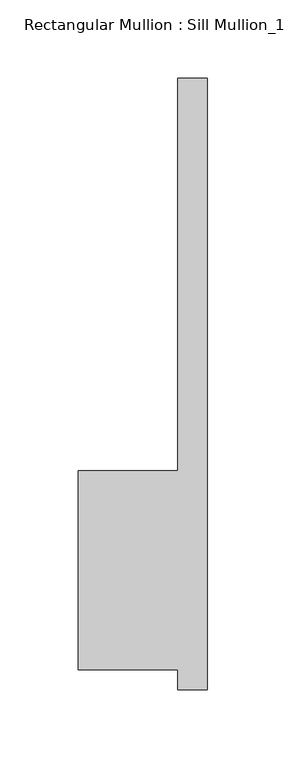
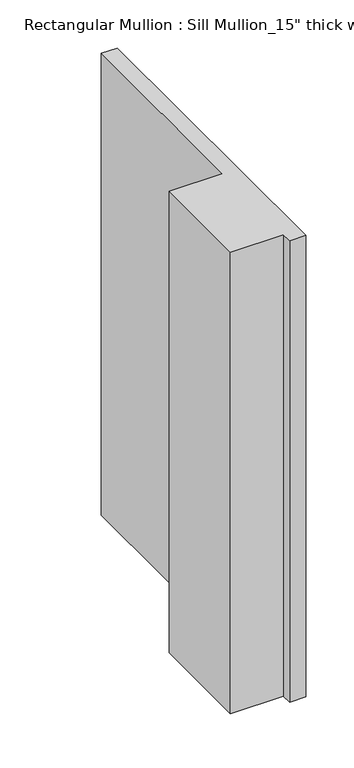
"""IFC4 building model written with IfcOpenShell, lengths in millimetres: member geometry."""

import ifcopenshell
import ifcopenshell.guid

model = None  # the IFC model being written
_history = None  # IfcOwnerHistory: only IFC2X3 demands one
_inside = {}  # id of a spatial element -> (the spatial element, [elements in it])
_under = {}  # id of a project, library or spatial element -> (it, [spatial elements below it])
_declared = {}  # id of a project -> (the project, [libraries it declares])
_typed = {}  # id of a type object -> (the type object, [elements of that type])
_made_of = {}  # id of a material, layer set ... -> (it, [elements and type objects made of it])


def new_model(schema):
    """Start an empty IFC model of exactly this schema.

    Asked for "IFC4X3", IfcOpenShell would pick the latest addendum, in which some entities
    have other attributes; the version numbers below select the first issue.
    IFC2X3 requires an IfcOwnerHistory on every rooted entity: one is made here for all.
    """
    global model, _history
    if schema == "IFC4X3":
        model = ifcopenshell.file(schema_version=(4, 3, 0, 0))
    else:
        model = ifcopenshell.file(schema=schema)
    _inside.clear()
    _under.clear()
    _declared.clear()
    _typed.clear()
    _made_of.clear()
    _history = None
    if model.schema == "IFC2X3":
        org = make("IfcOrganization", Name="unknown")
        user = make(
            "IfcPersonAndOrganization",
            ThePerson=make("IfcPerson", FamilyName="unknown"),
            TheOrganization=org,
        )
        app = make(
            "IfcApplication",
            ApplicationDeveloper=org,
            Version="unknown",
            ApplicationFullName="unknown",
            ApplicationIdentifier="unknown",
        )
        _history = make(
            "IfcOwnerHistory",
            OwningUser=user,
            OwningApplication=app,
            ChangeAction="ADDED",
            CreationDate=0,
        )
    return model


def make(cls, **values):
    """One entity of the class cls with the attributes given. An attribute that is None is left unset."""
    return model.create_entity(
        cls, **{name: value for name, value in values.items() if value is not None}
    )


def rooted(cls, **values):
    """An entity with a GlobalId (a new one), such as an element, a storey or a relation."""
    return make(cls, GlobalId=ifcopenshell.guid.new(), OwnerHistory=_history, **values)


def si_unit(unit_type, name, prefix=None):
    """IfcSIUnit, for example si_unit("LENGTHUNIT", "METRE", prefix="MILLI")."""
    return make("IfcSIUnit", UnitType=unit_type, Prefix=prefix, Name=name)


def assignment(units):
    """IfcUnitAssignment: the units of a project."""
    return None if units is None else make("IfcUnitAssignment", Units=units)


def point(xyz):
    """IfcCartesianPoint."""
    return None if xyz is None else make("IfcCartesianPoint", Coordinates=xyz)


def direction(xyz):
    """IfcDirection."""
    return None if xyz is None else make("IfcDirection", DirectionRatios=xyz)


def frame(location, z_axis=None, x_axis=None):
    """IfcAxis2Placement3D, a coordinate frame: its origin and axes. An axis left out is left unset."""
    return make(
        "IfcAxis2Placement3D",
        Location=point(location),
        Axis=direction(z_axis),
        RefDirection=direction(x_axis),
    )


def origin():
    """The frame at (0, 0, 0) with its axes left unset."""
    return frame((0.0, 0.0, 0.0))


def place(relative_to, where):
    """IfcLocalPlacement: puts the frame where relative to a parent placement (None: the world)."""
    return make(
        "IfcLocalPlacement", PlacementRelTo=relative_to, RelativePlacement=where
    )


def context(
    kind, dimensions, precision=None, world=None, true_north=None, identifier=None
):
    """IfcGeometricRepresentationContext, for example the 3D "Model" context."""
    return make(
        "IfcGeometricRepresentationContext",
        ContextIdentifier=identifier,
        ContextType=kind,
        CoordinateSpaceDimension=dimensions,
        Precision=precision,
        WorldCoordinateSystem=world,
        TrueNorth=true_north,
    )


def project(units=None, contexts=None):
    """IfcProject with its units and contexts."""
    return rooted(
        "IfcProject",
        Name="project",
        RepresentationContexts=contexts,
        UnitsInContext=assignment(units),
    )


def spatial(cls, under=None, at=None, **own):
    """A site, building, storey or space (cls), placed at a placement, below another one or the project."""
    s = rooted(cls, ObjectPlacement=at, **own)
    if under is not None:
        _under.setdefault(under.id(), (under, []))[1].append(s)
    return s


def polyline(points):
    """IfcPolyline through the points."""
    return make("IfcPolyline", Points=[point(p) for p in points])


def outline(outer, holes=None, kind="AREA"):
    """IfcArbitraryClosedProfileDef: a profile drawn as a closed curve; with holes, ...WithVoids."""
    if holes is None:
        return make("IfcArbitraryClosedProfileDef", ProfileType=kind, OuterCurve=outer)
    return make(
        "IfcArbitraryProfileDefWithVoids",
        ProfileType=kind,
        OuterCurve=outer,
        InnerCurves=holes,
    )


def extrude(swept, where, along, depth):
    """IfcExtrudedAreaSolid: the profile swept, set in the frame where, extruded along a direction by depth."""
    return make(
        "IfcExtrudedAreaSolid",
        SweptArea=swept,
        Position=where,
        ExtrudedDirection=direction(along),
        Depth=depth,
    )


def shape(context_of_items, identifier, shape_type, items):
    """IfcShapeRepresentation: the items that make up one representation, for example the "Body"."""
    return make(
        "IfcShapeRepresentation",
        ContextOfItems=context_of_items,
        RepresentationIdentifier=identifier,
        RepresentationType=shape_type,
        Items=items,
    )


def source(mapping_origin, context_of_items, identifier, shape_type, items):
    """IfcRepresentationMap: a shape defined once, which mapped items show again and again."""
    return make(
        "IfcRepresentationMap",
        MappingOrigin=mapping_origin,
        MappedRepresentation=shape(context_of_items, identifier, shape_type, items),
    )


def transform(
    local_origin,
    x_axis=None,
    y_axis=None,
    z_axis=None,
    scale=None,
    scale2=None,
    scale3=None,
    uniform=True,
):
    """IfcCartesianTransformationOperator3D, or its non-uniform kind. x_axis, y_axis, z_axis: its Axis1, 2, 3."""
    if uniform:
        return make(
            "IfcCartesianTransformationOperator3D",
            Axis1=direction(x_axis),
            Axis2=direction(y_axis),
            LocalOrigin=point(local_origin),
            Scale=scale,
            Axis3=direction(z_axis),
        )
    return make(
        "IfcCartesianTransformationOperator3DnonUniform",
        Axis1=direction(x_axis),
        Axis2=direction(y_axis),
        LocalOrigin=point(local_origin),
        Scale=scale,
        Axis3=direction(z_axis),
        Scale2=scale2,
        Scale3=scale3,
    )


def mapped(mapping_source, mapping_target):
    """IfcMappedItem: shows the shape of a source again, moved by a transform."""
    return make(
        "IfcMappedItem", MappingSource=mapping_source, MappingTarget=mapping_target
    )


def made_of(thing, what):
    """Note that an element or type object is made of a material, layer set ...; save() writes the relation."""
    if what is not None:
        _made_of.setdefault(what.id(), (what, []))[1].append(thing)
    return thing


def element(
    cls,
    number,
    at=None,
    inside=None,
    cuts=None,
    type_object=None,
    material=None,
    context=None,
    identifier="Body",
    shape_type=None,
    held_by="IfcProductDefinitionShape",
    body=None,
    shapes=None,
    **own,
):
    """One element of the class cls, such as IfcWall. Its Tag is "e" and its number.

    at: its placement. inside: the storey or other place that contains it. cuts: it is an
    opening in that element (IfcRelVoidsElement). A single representation is given by context,
    identifier, shape_type and body (its items); several are given by shapes. held_by: the class
    of the entity that holds the representations. save() writes the other relations.
    """
    e = rooted(cls, Tag="e%d" % number, ObjectPlacement=at, **own)
    if body is not None:
        shapes = [shape(context, identifier, shape_type, body)]
    if shapes is not None:
        e.Representation = make(held_by, Representations=shapes)
    if inside is not None:
        _inside.setdefault(inside.id(), (inside, []))[1].append(e)
    if cuts is not None:
        rooted(
            "IfcRelVoidsElement", RelatingBuildingElement=cuts, RelatedOpeningElement=e
        )
    if type_object is not None:
        _typed.setdefault(type_object.id(), (type_object, []))[1].append(e)
    return made_of(e, material)


def aggregate(whole, parts):
    """IfcRelAggregates: a whole, such as a stair, and the parts it consists of."""
    return rooted("IfcRelAggregates", RelatingObject=whole, RelatedObjects=parts)


def save(model, path):
    """Write the relations noted so far, then the file.

    IfcRelAggregates (storeys below a building ...), IfcRelContainedInSpatialStructure (elements
    in a storey), IfcRelDefinesByType, IfcRelAssociatesMaterial and IfcRelDeclares: one each for
    every whole, place, type object, material and project.
    """
    for whole, parts in _under.values():
        aggregate(whole, parts)
    for where, things in _inside.values():
        rooted(
            "IfcRelContainedInSpatialStructure",
            RelatedElements=things,
            RelatingStructure=where,
        )
    for kind, things in _typed.values():
        rooted("IfcRelDefinesByType", RelatedObjects=things, RelatingType=kind)
    for what, things in _made_of.values():
        rooted("IfcRelAssociatesMaterial", RelatedObjects=things, RelatingMaterial=what)
    for by, libraries in _declared.values():
        rooted("IfcRelDeclares", RelatingContext=by, RelatedDefinitions=libraries)
    model.write(path)


def member_9dfedfd5(model_context):
    return source(origin(), model_context, "Body", "SweptSolid", [
        extrude(outline(polyline([(-82.55, 50.8), (-19.05, 50.8), (-19.05, 301.625), (0.0, 301.625), (0.0, -88.9), (-19.05, -88.9), (-19.05, -76.2), (-82.55, -76.2), (-82.55, 50.8)])), frame((0.0, 0.0, -584.2), z_axis=(0.0, 0.0, 1.0), x_axis=(1.0, 0.0, 0.0)), (0.0, 0.0, 1.0), 584.2),
    ])


if __name__ == "__main__":
    model = new_model("IFC4")
    model_context = context("Model", 3, world=origin())
    ifc_project = project(units=[si_unit("LENGTHUNIT", "METRE", prefix="MILLI")], contexts=[model_context])
    site = spatial("IfcSite", under=ifc_project)
    building = spatial("IfcBuilding", under=site)
    placement = place(None, origin())
    member_shape = member_9dfedfd5(model_context)
    element("IfcMember", 1, ObjectType="Rectangular Mullion : Sill Mullion_15\" thick wall", at=placement, inside=building, context=model_context, shape_type="MappedRepresentation", body=[
        mapped(member_shape, transform((0.0, 0.0, 0.0), x_axis=(1.0, 0.0, 0.0), y_axis=(0.0, 1.0, 0.0), z_axis=(0.0, 0.0, 1.0))),
    ])
    save(model, "model.ifc")
